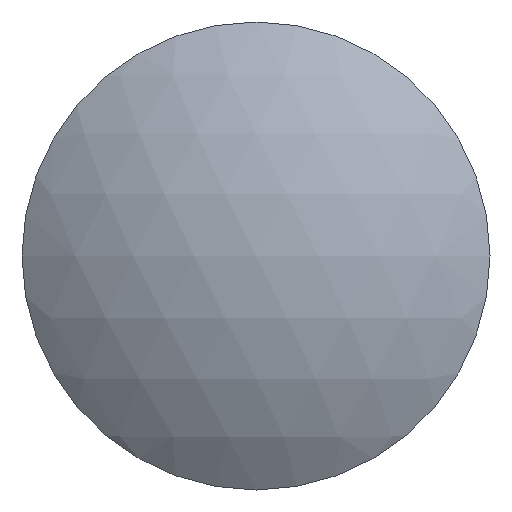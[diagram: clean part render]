
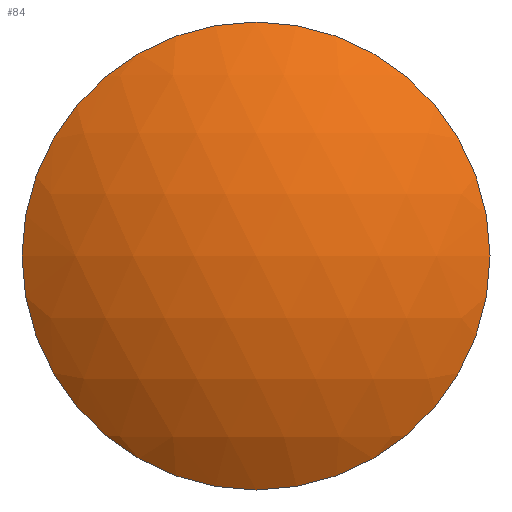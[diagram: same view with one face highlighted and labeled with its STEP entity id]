
A CAD part, front view. The second image highlights one B-rep face of the part: STEP entity #84.
In plain terms, the highlighted spherical face has radius 12.98 mm.
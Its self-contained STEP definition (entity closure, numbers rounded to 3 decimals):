
#68=CARTESIAN_POINT('',(0.0,8.58,0.0));
#69=DIRECTION('',(0.0,0.0,1.0));
#70=DIRECTION('',(1.0,0.0,0.0));
#71=AXIS2_PLACEMENT_3D('',#68,#69,#70);
#72=SPHERICAL_SURFACE('',#71,12.98);
#73=CARTESIAN_POINT('',(-7.5,-2.014,0.0));
#74=VERTEX_POINT('',#73);
#75=CARTESIAN_POINT('',(0.0,-2.014,0.0));
#76=DIRECTION('',(0.0,1.0,0.0));
#77=DIRECTION('',(-1.0,0.0,0.0));
#78=AXIS2_PLACEMENT_3D('',#75,#76,#77);
#79=CIRCLE('',#78,7.5);
#80=EDGE_CURVE('',#74,#74,#79,.T.);
#81=ORIENTED_EDGE('',*,*,#80,.F.);
#82=EDGE_LOOP('',(#81));
#83=FACE_OUTER_BOUND('',#82,.T.);
#84=ADVANCED_FACE('',(#83),#72,.T.);
